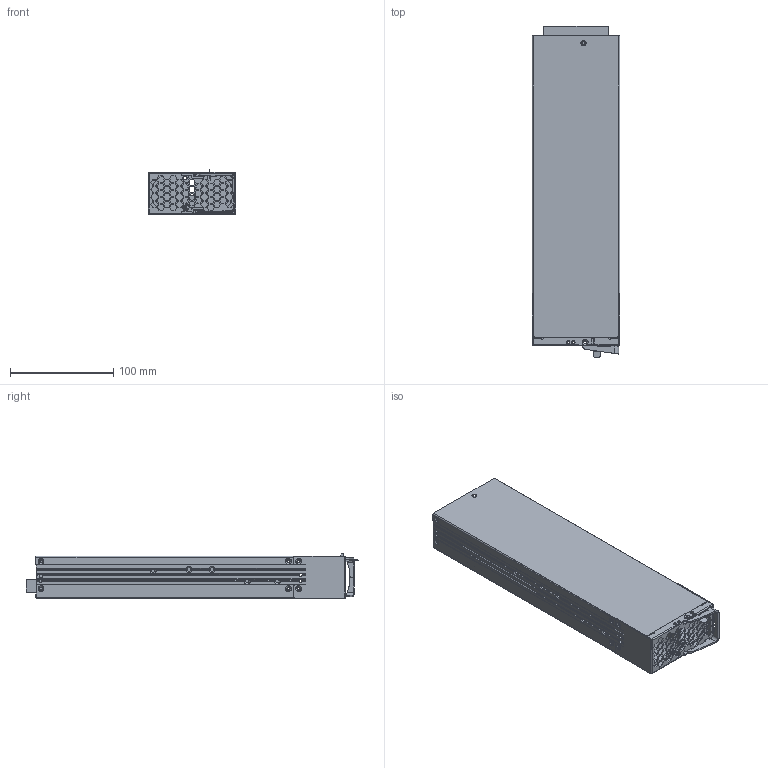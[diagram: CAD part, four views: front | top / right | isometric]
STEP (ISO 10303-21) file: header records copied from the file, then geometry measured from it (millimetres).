
FILE_DESCRIPTION((''),'2;1');
FILE_NAME('RCB-1600_ASM-0417_ASM','2023-04-17T',('Vincent.Kao'),(''),'CREO PARAMETRIC BY PTC INC, 2016260','CREO PARAMETRIC BY PTC INC, 2016260','');
FILE_SCHEMA(('AUTOMOTIVE_DESIGN { 1 0 10303 214 1 1 1 1 }'));
Length unit declared in the file: millimetre
Products named in the file (19): SKIN_GROUP17; SKIN_GROUP16; SKIN_GROUP1; SKIN_GROUP2; SKIN_GROUP3; SKIN_GROUP4; SKIN_GROUP5; SKIN_GROUP6; SKIN_GROUP7; SKIN_GROUP8; SKIN_GROUP9; SKIN_GROUP10; SKIN_GROUP11; SKIN_GROUP12; SKIN_GROUP13; SKIN_GROUP14; SKIN_GROUP15; ASSEMBLY1_ASM; RCB-1600_ASM-0417_ASM
Assembly tree (18 placements, depth 3):
  RCB-1600_ASM-0417_ASM
    ASSEMBLY1_ASM
      SKIN_GROUP17
      SKIN_GROUP16
      SKIN_GROUP1
      SKIN_GROUP2
      SKIN_GROUP3
      SKIN_GROUP4
      SKIN_GROUP5
      SKIN_GROUP6
      SKIN_GROUP7
      SKIN_GROUP8
      SKIN_GROUP9
      SKIN_GROUP10
      SKIN_GROUP11
      SKIN_GROUP12
      SKIN_GROUP13
      SKIN_GROUP14
      SKIN_GROUP15
Bounding box: 85 x 321.79 x 43.1 mm (x, y, z)
Volume: 216389.6 mm3; surface area: 303013.9 mm2
Topology: 17 solids, 17 shells, 1332 faces, 3778 edges, 2469 vertices
Faces by surface type: plane 792, cylinder 410, cone 96, torus 16, extrusion 15, bspline 3
Entity records: 54943 total; most frequent: CARTESIAN_POINT 9081, ORIENTED_EDGE 7556, DIRECTION 7131, EDGE_CURVE 3778, VECTOR 2669, LINE 2654, VERTEX_POINT 2469, AXIS2_PLACEMENT_3D 2231
